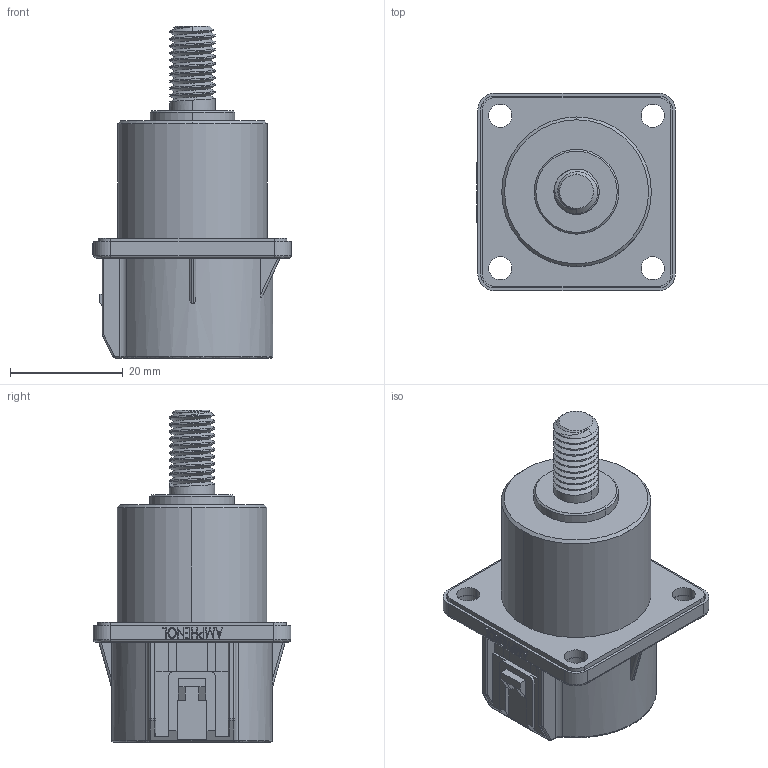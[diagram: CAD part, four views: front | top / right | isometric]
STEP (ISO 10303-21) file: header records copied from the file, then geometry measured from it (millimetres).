
FILE_DESCRIPTION (( 'STEP AP214' ), '1' );
FILE_NAME ('PL00X-300-20M8.STEP', '2015-05-28T07:08:40', ( '' ), ( '' ), 'SwSTEP 2.0', 'SolidWorks 2014', '' );
FILE_SCHEMA (( 'AUTOMOTIVE_DESIGN' ));
Length unit declared in the file: millimetre
Products named in the file (1): PL00X-300-20M8
Bounding box: 35.2 x 35 x 58.8 mm (x, y, z)
Volume: 23618.1 mm3; surface area: 8684.4 mm2
Topology: 1 solids, 3 shells, 374 faces, 998 edges, 641 vertices
Faces by surface type: plane 188, cylinder 122, bspline 41, cone 23
Entity records: 18352 total; most frequent: CARTESIAN_POINT 5122, ORIENTED_EDGE 1996, DIRECTION 1782, EDGE_CURVE 998, VERTEX_POINT 641, VECTOR 614, LINE 614, AXIS2_PLACEMENT_3D 584
